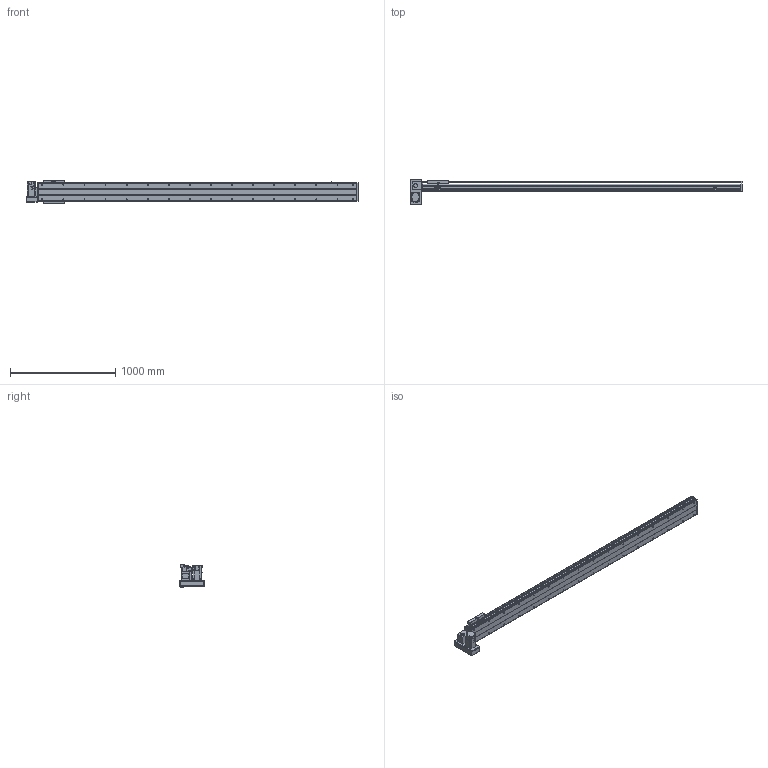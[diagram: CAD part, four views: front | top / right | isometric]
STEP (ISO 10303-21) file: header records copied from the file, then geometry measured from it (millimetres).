
FILE_DESCRIPTION(/* description */ ('STEP AP214'),/* implementation_level */ '2;1');
FILE_NAME(/* name */ 'PBS200-P40-S2650-LD-T75-C1-N(0)',/* time_stamp */ '2022-06-11T08:46:55+02:00',/* author */ ('License CC BY-ND 4.0'),/* organization */ ('CADENAS'),/* preprocessor_version */ 'ST-DEVELOPER v18.102',/* originating_system */ 'PARTsolutions',/* authorisation */ ' ');
FILE_SCHEMA (('AUTOMOTIVE_DESIGN {1 0 10303 214 3 1 1}'));
Length unit declared in the file: millimetre
Products named in the file (7): PBS200-P40-S2650-LD-T75-C1-N(0); PBS200_sensor; PBS200_plant; PBS200_sliser; T75-p1; PBS200T-LD_motors; PBS200-S2650()_body
Assembly tree (8 placements, depth 2):
  PBS200-P40-S2650-LD-T75-C1-N(0)
    PBS200_sensor  x3
    PBS200_plant
    PBS200_sliser
    T75-p1
    PBS200T-LD_motors
    PBS200-S2650()_body
Bounding box: 3150 x 230 x 221 mm (x, y, z)
Volume: 21540713.5 mm3; surface area: 3443954.3 mm2
Topology: 8 solids, 8 shells, 968 faces, 2454 edges, 1596 vertices
Faces by surface type: plane 590, cylinder 314, cone 64
Full cylindrical faces by diameter (mm): 2.459 x6, 3.242 x4, 4.5 x6, 4.917 x4, 5 x6, 6 x7, 6.6 x8, 6.647 x36, 8 x6, 10 x4, 12 x8, 38 x2, 40 x1, 70 x1
Entity records: 25541 total; most frequent: DIRECTION 4519, CARTESIAN_POINT 4336, ORIENTED_EDGE 4078, EDGE_CURVE 2039, AXIS2_PLACEMENT_3D 1603, VERTEX_POINT 1420, LINE 1313, VECTOR 1313
